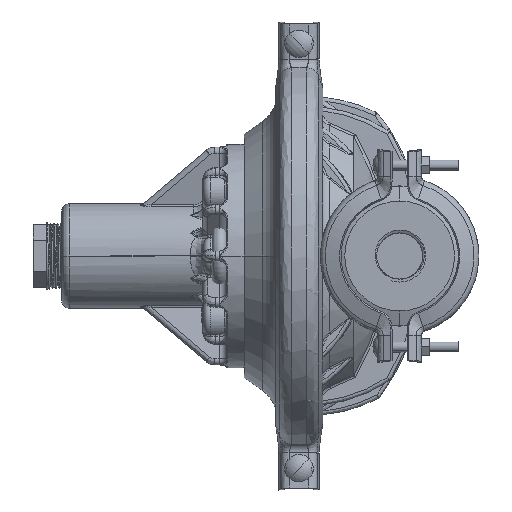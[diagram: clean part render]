
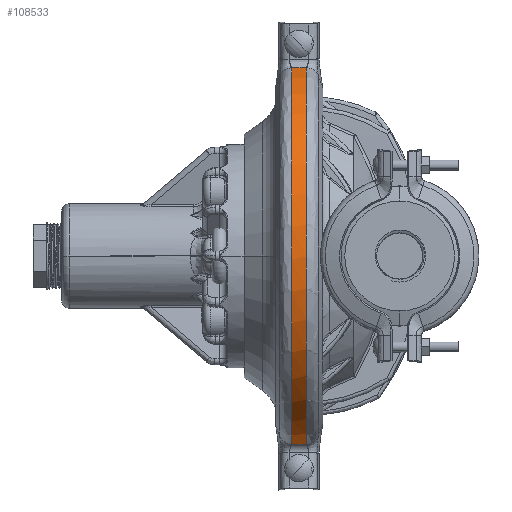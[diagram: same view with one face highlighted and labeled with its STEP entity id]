
A CAD part, left-side view. The second image highlights one B-rep face of the part: STEP entity #108533.
In plain terms, the highlighted cylindrical face has radius 123.18 mm (diameter 246.36 mm), a partial arc.
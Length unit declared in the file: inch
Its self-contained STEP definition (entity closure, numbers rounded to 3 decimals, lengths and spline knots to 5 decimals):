
#144 = EDGE_CURVE ( 'NONE', #116404, #56494, #67110, .T. ) ;
#722 = CARTESIAN_POINT ( 'NONE',  ( -1.69202, -1.50153, 4.49767 ) ) ;
#905 = CARTESIAN_POINT ( 'NONE',  ( -4.32081, -1.12847, 1.8381 ) ) ;
#1893 = CARTESIAN_POINT ( 'NONE',  ( -4.49648, -1.12847, -1.32975 ) ) ;
#2393 = VERTEX_POINT ( 'NONE', #99885 ) ;
#14756 = CARTESIAN_POINT ( 'NONE',  ( -0.97747, -1.50153, 4.71067 ) ) ;
#14896 = CARTESIAN_POINT ( 'NONE',  ( -0.97747, -1.50153, 4.71067 ) ) ;
#15877 = CARTESIAN_POINT ( 'NONE',  ( -2.39396, -1.50153, -4.14097 ) ) ;
#28234 = CARTESIAN_POINT ( 'NONE',  ( -1.49458, -1.12847, -4.56108 ) ) ;
#30242 = CARTESIAN_POINT ( 'NONE',  ( -4.56312, -1.12847, 1.06826 ) ) ;
#31865 = DIRECTION ( 'NONE',  ( 0., 1., 0. ) ) ;
#32017 = CARTESIAN_POINT ( 'NONE',  ( -0.97747, -1.50153, -4.71067 ) ) ;
#32146 = ORIENTED_EDGE ( 'NONE', *, *, #71911, .F. ) ;
#32197 = CARTESIAN_POINT ( 'NONE',  ( -3.47392, -1.12847, 3.20568 ) ) ;
#33016 = CARTESIAN_POINT ( 'NONE',  ( -4.69766, -1.50153, -0.00004 ) ) ;
#34922 = DIRECTION ( 'NONE',  ( 0., -1., 0. ) ) ;
#43396 = CARTESIAN_POINT ( 'NONE',  ( -4.6746, -1.12847, -0.26892 ) ) ;
#43942 = ORIENTED_EDGE ( 'NONE', *, *, #53909, .T. ) ;
#45191 = CARTESIAN_POINT ( 'NONE',  ( -4.42275, -1.50153, 1.6137 ) ) ;
#45381 = CARTESIAN_POINT ( 'NONE',  ( -4.65218, -1.12847, 0.53784 ) ) ;
#46125 = CYLINDRICAL_SURFACE ( 'NONE', #53095, 4.8496 ) ;
#46210 = CARTESIAN_POINT ( 'NONE',  ( -1.20495, -1.50153, 4.65501 ) ) ;
#51484 = LINE ( 'NONE', #144485, #163041 ) ;
#53095 = AXIS2_PLACEMENT_3D ( 'NONE', #192603, #34922, #100569 ) ;
#53909 = EDGE_CURVE ( 'NONE', #154327, #116404, #153211, .T. ) ;
#56494 = VERTEX_POINT ( 'NONE', #112709 ) ;
#59545 = CARTESIAN_POINT ( 'NONE',  ( -2.89271, -1.12847, -3.76565 ) ) ;
#61260 = FACE_OUTER_BOUND ( 'NONE', #169785, .T. ) ;
#62525 = CARTESIAN_POINT ( 'NONE',  ( -4.49648, -1.12847, 1.32975 ) ) ;
#63508 = CARTESIAN_POINT ( 'NONE',  ( -3.29025, -1.12847, -3.40338 ) ) ;
#67110 = B_SPLINE_CURVE_WITH_KNOTS ( 'NONE', 3,
 ( #106032, #182898, #78707, #92868, #74708, #75725, #123209, #140353, #32197, #154520, #122205, #183883, #905, #62525, #30242, #45381, #125168, #43396, #124193, #93854, #1893, #185888, #138364, #155522, #136377, #109028, #63508, #59545, #105058, #91880, #170699, #28234, #198089, #76708 ),
 .UNSPECIFIED., .F., .F.,
 ( 4, 2, 2, 2, 2, 2, 2, 2, 2, 2, 2, 2, 2, 2, 2, 2, 4 ),
 ( 0., 0.0625, 0.125, 0.1875, 0.25, 0.3125, 0.375, 0.4375, 0.5, 0.5625, 0.625, 0.6875, 0.75, 0.8125, 0.875, 0.9375, 1. ),
 .UNSPECIFIED. ) ;
#71911 = EDGE_CURVE ( 'NONE', #154327, #2393, #130264, .T. ) ;
#74708 = CARTESIAN_POINT ( 'NONE',  ( -2.2268, -1.12847, 4.22165 ) ) ;
#75725 = CARTESIAN_POINT ( 'NONE',  ( -2.67884, -1.12847, 3.93021 ) ) ;
#76708 = CARTESIAN_POINT ( 'NONE',  ( -0.97747, -1.12847, -4.71067 ) ) ;
#78707 = CARTESIAN_POINT ( 'NONE',  ( -1.49458, -1.12847, 4.56108 ) ) ;
#91291 = VECTOR ( 'NONE', #31865, 39.37008 ) ;
#91880 = CARTESIAN_POINT ( 'NONE',  ( -2.2268, -1.12847, -4.22165 ) ) ;
#92868 = CARTESIAN_POINT ( 'NONE',  ( -1.98864, -1.12847, 4.34852 ) ) ;
#93854 = CARTESIAN_POINT ( 'NONE',  ( -4.56312, -1.12847, -1.06826 ) ) ;
#99885 = CARTESIAN_POINT ( 'NONE',  ( -0.97747, -1.50153, -4.71067 ) ) ;
#100569 = DIRECTION ( 'NONE',  ( -0.238, 0., 0.971 ) ) ;
#105058 = CARTESIAN_POINT ( 'NONE',  ( -2.67884, -1.12847, -3.93021 ) ) ;
#106032 = CARTESIAN_POINT ( 'NONE',  ( -0.97747, -1.12847, 4.71067 ) ) ;
#106850 = CARTESIAN_POINT ( 'NONE',  ( -2.39403, -1.50153, 4.14092 ) ) ;
#107868 = CARTESIAN_POINT ( 'NONE',  ( -3.62675, -1.50153, -3.04819 ) ) ;
#108533 = ADVANCED_FACE ( 'NONE', ( #61260 ), #46125, .T. ) ;
#109028 = CARTESIAN_POINT ( 'NONE',  ( -3.47392, -1.12847, -3.20568 ) ) ;
#112709 = CARTESIAN_POINT ( 'NONE',  ( -0.97747, -1.12847, -4.71067 ) ) ;
#116404 = VERTEX_POINT ( 'NONE', #124049 ) ;
#117356 = EDGE_CURVE ( 'NONE', #2393, #56494, #51484, .T. ) ;
#117986 = CARTESIAN_POINT ( 'NONE',  ( -0.97747, -1.50153, 4.71067 ) ) ;
#122205 = CARTESIAN_POINT ( 'NONE',  ( -3.95437, -1.12847, 2.55719 ) ) ;
#123209 = CARTESIAN_POINT ( 'NONE',  ( -2.89271, -1.12847, 3.76565 ) ) ;
#124049 = CARTESIAN_POINT ( 'NONE',  ( -0.97747, -1.12847, 4.71067 ) ) ;
#124193 = CARTESIAN_POINT ( 'NONE',  ( -4.65218, -1.12847, -0.53784 ) ) ;
#125168 = CARTESIAN_POINT ( 'NONE',  ( -4.6746, -1.12847, 0.26892 ) ) ;
#130264 = B_SPLINE_CURVE_WITH_KNOTS ( 'NONE', 3,
 ( #14896, #46210, #722, #106850, #183696, #154347, #185708, #45191, #167528, #33016, #152358, #168542, #184710, #107868, #156337, #15877, #139173, #170519, #32017 ),
 .UNSPECIFIED., .F., .F.,
 ( 4, 1, 1, 1, 1, 1, 1, 1, 1, 1, 1, 1, 1, 1, 1, 1, 4 ),
 ( 0., 0.05385, 0.11758, 0.18132, 0.24506, 0.30879, 0.37253, 0.43627, 0.5, 0.56374, 0.62748, 0.69121, 0.75495, 0.81869, 0.88242, 0.94616, 1. ),
 .UNSPECIFIED. ) ;
#136377 = CARTESIAN_POINT ( 'NONE',  ( -3.80598, -1.12847, -2.78258 ) ) ;
#138364 = CARTESIAN_POINT ( 'NONE',  ( -4.21179, -1.12847, -2.08495 ) ) ;
#139173 = CARTESIAN_POINT ( 'NONE',  ( -1.69197, -1.50153, -4.49769 ) ) ;
#140353 = CARTESIAN_POINT ( 'NONE',  ( -3.29025, -1.12847, 3.40338 ) ) ;
#144485 = CARTESIAN_POINT ( 'NONE',  ( -0.97747, -1.50153, -4.71067 ) ) ;
#152358 = CARTESIAN_POINT ( 'NONE',  ( -4.62847, -1.50153, -0.81832 ) ) ;
#153211 = LINE ( 'NONE', #14756, #91291 ) ;
#154327 = VERTEX_POINT ( 'NONE', #117986 ) ;
#154347 = CARTESIAN_POINT ( 'NONE',  ( -3.6268, -1.50153, 3.04813 ) ) ;
#154520 = CARTESIAN_POINT ( 'NONE',  ( -3.80598, -1.12847, 2.78258 ) ) ;
#155522 = CARTESIAN_POINT ( 'NONE',  ( -3.95437, -1.12847, -2.55719 ) ) ;
#156337 = CARTESIAN_POINT ( 'NONE',  ( -3.05768, -1.50153, -3.64631 ) ) ;
#158707 = ORIENTED_EDGE ( 'NONE', *, *, #117356, .F. ) ;
#163041 = VECTOR ( 'NONE', #189007, 39.37008 ) ;
#167528 = CARTESIAN_POINT ( 'NONE',  ( -4.62848, -1.50153, 0.81824 ) ) ;
#168542 = CARTESIAN_POINT ( 'NONE',  ( -4.42272, -1.50153, -1.61378 ) ) ;
#169785 = EDGE_LOOP ( 'NONE', ( #187216, #158707, #32146, #43942 ) ) ;
#170519 = CARTESIAN_POINT ( 'NONE',  ( -1.20492, -1.50153, -4.65501 ) ) ;
#170699 = CARTESIAN_POINT ( 'NONE',  ( -1.98864, -1.12847, -4.34852 ) ) ;
#182898 = CARTESIAN_POINT ( 'NONE',  ( -1.23869, -1.12847, 4.64676 ) ) ;
#183696 = CARTESIAN_POINT ( 'NONE',  ( -3.05774, -1.50153, 3.64626 ) ) ;
#183883 = CARTESIAN_POINT ( 'NONE',  ( -4.21179, -1.12847, 2.08495 ) ) ;
#184710 = CARTESIAN_POINT ( 'NONE',  ( -4.08584, -1.50153, -2.36414 ) ) ;
#185708 = CARTESIAN_POINT ( 'NONE',  ( -4.08588, -1.50153, 2.36407 ) ) ;
#185888 = CARTESIAN_POINT ( 'NONE',  ( -4.32081, -1.12847, -1.8381 ) ) ;
#187216 = ORIENTED_EDGE ( 'NONE', *, *, #144, .T. ) ;
#189007 = DIRECTION ( 'NONE',  ( 0., 1., 0. ) ) ;
#192603 = CARTESIAN_POINT ( 'NONE',  ( 0.175, -1.315, 0. ) ) ;
#198089 = CARTESIAN_POINT ( 'NONE',  ( -1.23869, -1.12847, -4.64676 ) ) ;
